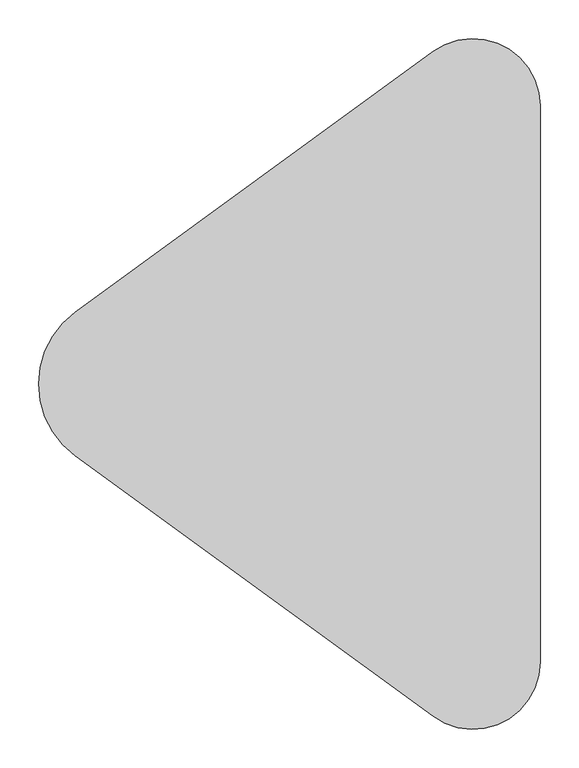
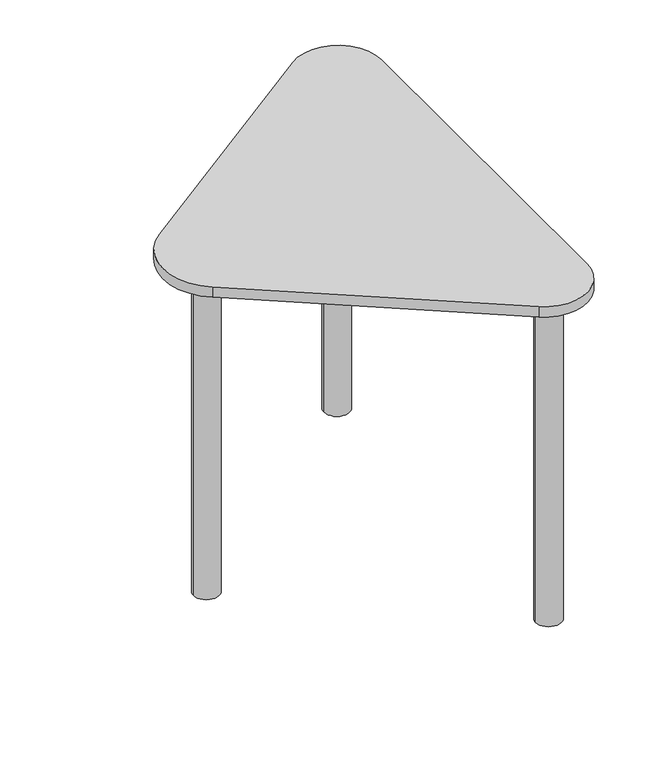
"""IFC4 building model written with IfcOpenShell, lengths in millimetres: furniture geometry, Pinta Triangle : Legs without Castors."""

from ifc_helpers import new_model, si_unit, point, frame, frame_2d, origin, origin_with_axes, place, context, project, spatial, polyline, circle_curve, trimmed, segment, composite_curve, outline, extrude, source, transform, mapped, element, save


def furniture_db0b7f3e(model_context):
    return source(origin(), model_context, "Body", "SweptSolid", [
        extrude(outline(composite_curve([segment(trimmed(circle_curve(frame_2d((-0.0001485, -369.94205)), 26.0), [point((-26.0001485, -369.94205))], [point((25.9998515, -369.94205))], False, "CARTESIAN"), True, "CONTINUOUS"), segment(trimmed(circle_curve(frame_2d((-0.0001485, -369.94205)), 26.0), [point((25.9998515, -369.94205))], [point((-26.0001485, -369.94205))], False, "CARTESIAN"), True, "CONTINUOUS")], self_intersect=False)), origin_with_axes(), (0.0, 0.0, 1.0), 698.0),
        extrude(outline(composite_curve([segment(trimmed(circle_curve(frame_2d((-0.0001485, 370.05795)), 26.0), [point((-26.0001485, 370.05795))], [point((25.9998515, 370.05795))], False, "CARTESIAN"), True, "CONTINUOUS"), segment(trimmed(circle_curve(frame_2d((-0.0001485, 370.05795)), 26.0), [point((25.9998515, 370.05795))], [point((-26.0001485, 370.05795))], False, "CARTESIAN"), True, "CONTINUOUS")], self_intersect=False)), origin_with_axes(), (0.0, 0.0, 1.0), 698.0),
        extrude(outline(composite_curve([segment(trimmed(circle_curve(frame_2d((-476.9345468, 0.3785984)), 26.0), [point((-502.9345468, 0.3785984))], [point((-450.9345468, 0.3785984))], False, "CARTESIAN"), True, "CONTINUOUS"), segment(trimmed(circle_curve(frame_2d((-476.9345468, 0.3785984)), 26.0), [point((-450.9345468, 0.3785984))], [point((-502.9345468, 0.3785984))], False, "CARTESIAN"), True, "CONTINUOUS")], self_intersect=False)), origin_with_axes(), (0.0, 0.0, 1.0), 698.0),
        extrude(outline(composite_curve([segment(polyline([(-517.7368512, 93.3576027), (-54.0140735, 430.2719219)]), True, "CONTINUOUS"), segment(trimmed(circle_curve(frame_2d((-2.8767566, 359.8874434)), 87.0), [point((-54.0140735, 430.2719219))], [point((84.1232434, 359.8874434))], False, "CARTESIAN"), True, "CONTINUOUS"), segment(polyline([(84.1232434, 359.8874434), (84.1232434, -359.2461467)]), True, "CONTINUOUS"), segment(trimmed(circle_curve(frame_2d((-2.8767566, -359.2461467)), 87.0), [point((84.1232434, -359.2461467))], [point((-54.0140735, -429.6306252))], False, "CARTESIAN"), True, "CONTINUOUS"), segment(polyline([(-54.0140735, -429.6306252), (-517.7368512, -92.716306)]), True, "CONTINUOUS"), segment(trimmed(circle_curve(frame_2d((-450.1415472, 0.3206484)), 115.0), [point((-517.7368512, -92.716306))], [point((-517.7368512, 93.3576027))], False, "CARTESIAN"), True, "CONTINUOUS")], self_intersect=False)), frame((0.0, 0.0, 698.0), z_axis=(0.0, 0.0, 1.0), x_axis=(1.0, 0.0, 0.0)), (0.0, 0.0, 1.0), 22.0),
    ])


if __name__ == "__main__":
    model = new_model("IFC4")
    model_context = context("Model", 3, world=origin())
    ifc_project = project(units=[si_unit("LENGTHUNIT", "METRE", prefix="MILLI")], contexts=[model_context])
    site = spatial("IfcSite", under=ifc_project)
    building = spatial("IfcBuilding", under=site)
    placement = place(None, origin())
    furniture_shape = furniture_db0b7f3e(model_context)
    element("IfcFurniture", 1, ObjectType="Pinta Triangle : Legs without Castors", at=placement, inside=building, context=model_context, shape_type="MappedRepresentation", body=[
        mapped(furniture_shape, transform((0.0, 0.0, 0.0), x_axis=(1.0, 0.0, 0.0), y_axis=(0.0, 1.0, 0.0), z_axis=(0.0, 0.0, 1.0))),
    ])
    save(model, "model.ifc")
